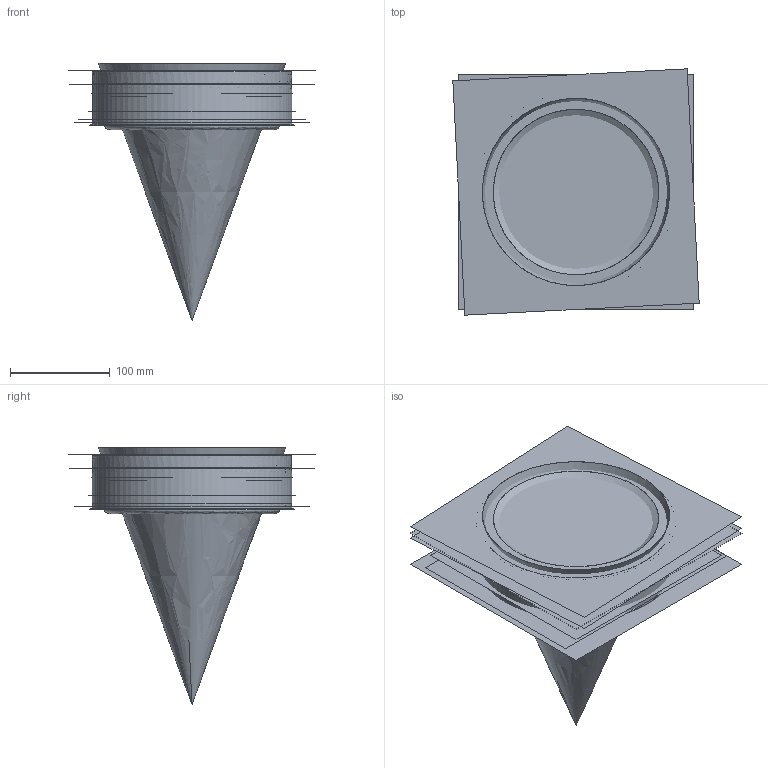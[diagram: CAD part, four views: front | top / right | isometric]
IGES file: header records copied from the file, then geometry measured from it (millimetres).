
Global section: file name: C:\Users\utente\Desktop\3d sito\BARBADOS\BARBADOS M.igs; native system: Rhinoceros ( Mar  9 2011 ); preprocessor: Trout Lake IGES 012 Mar  9 2011; date: 170517.103530; units: millimetre
Bounding box: 246.79 x 246.79 x 257.74 mm (x, y, z)
Surface area: 1405529.6 mm2 (no closed solid volume)
Topology: 0 solids, 0 shells, 101 faces, 262 edges, 178 vertices
Faces by surface type: bspline 101
